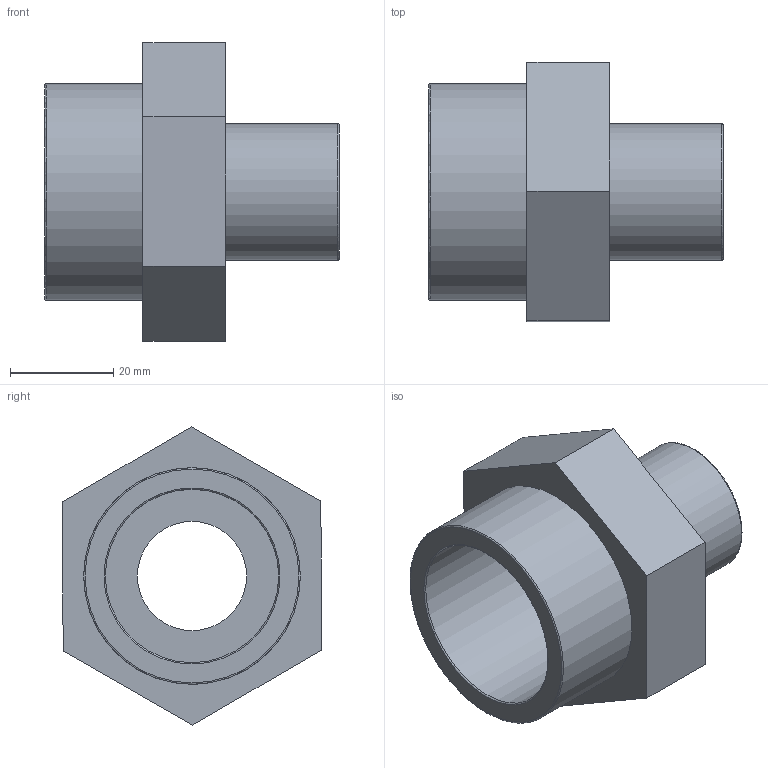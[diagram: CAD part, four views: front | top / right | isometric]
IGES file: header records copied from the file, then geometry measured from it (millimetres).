
Global section: file name: 051601013007.ipt; native system: Autodesk Inventor 2015; preprocessor: unknown; author: KIM; date: 20171207.165257; units: millimetre
Bounding box: 57 x 50.11 x 57.73 mm (x, y, z)
Volume: 36632.2 mm3; surface area: 15661.3 mm2
Topology: 1 solids, 1 shells, 19 faces, 50 edges, 36 vertices
Faces by surface type: plane 11, revolution 6, cylinder 2
Full cylindrical faces by diameter (mm): 26.441 x1, 41.91 x1
